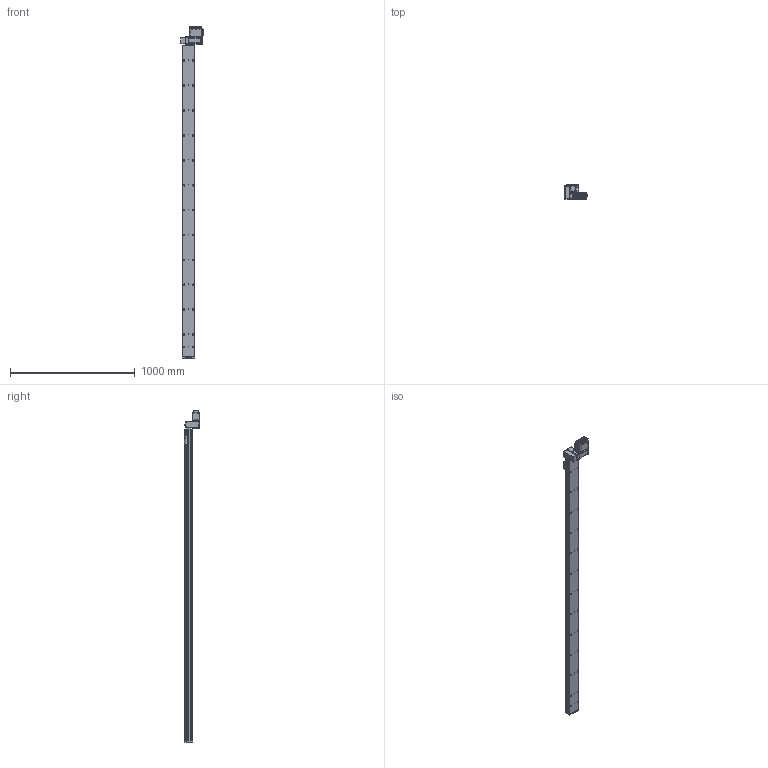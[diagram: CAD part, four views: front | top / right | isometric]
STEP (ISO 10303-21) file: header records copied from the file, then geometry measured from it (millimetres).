
FILE_DESCRIPTION (( 'STEP AP203' ), '1' );
FILE_NAME ('S10 TBN RH S2500.STEP', '2012-06-14T09:43:56', ( 'Conseil Régional Haute-Normandie' ), ( 'Conseil Régional Haute-Normandie' ), 'SwSTEP 2.0', 'SolidWorks 2010', '' );
FILE_SCHEMA (( 'CONFIG_CONTROL_DESIGN' ));
Products named in the file (29): plaque de bout s10_Default; cache t皻e_Default; Couvercle_3; T_X2_00F4_X0_le fond_3; T_X2_00F4_X0_le Arri_X2_00E8_X0_re_5; Colonnette ronde_3; T_X2_00F4_X0_le lat_X2_00E9_X0_rale_5; Cvis M5 L30_Default; S10 TBN RH S2500; axe 2500; T_X2_00F4_X0_le contre le moteur_5; embout; palette tbn; cache t皻e axe_Default; renvoi LH_Default; Plaque racord_Default; Assem1_7; BU41 Carte Alimentation P05_3; Colonnette_3; BU45 Carte d''axe A11_5; Moteur 60BLDC90A_3; Connecteur rond D10 3cts_5; Connecteur rond D12 4cts_5; Sub D 9cts 90_X2_00B_X0__3; Radiateur profil_X2_00E9_X0_ 100x25_3; Vis TF 3 torkx_1_1; Vis TF 3 torkx; vis M5 L12_Default; vis M5 L5_Default
Assembly tree (65 placements, depth 3):
  S10 TBN RH S2500
    vis M5 L12_Default  x4
    Plaque racord_Default
    vis M5 L5_Default  x4
    Vis TF 3 torkx  x7
    palette tbn
    cache t皻e_Default  x2
    renvoi LH_Default
    Cvis M5 L30_Default  x2
    cache t皻e axe_Default
    plaque de bout s10_Default
    Assem1_7
      Sub D 9cts 90_X2_00B_X0__3
      BU45 Carte d''axe A11_5
      Radiateur profil_X2_00E9_X0_ 100x25_3
      Vis TF 3 torkx_1_1  x21
      T_X2_00F4_X0_le contre le moteur_5
      Connecteur rond D10 3cts_5  x2
      T_X2_00F4_X0_le lat_X2_00E9_X0_rale_5  x2
      BU41 Carte Alimentation P05_3
      Colonnette_3  x2
      T_X2_00F4_X0_le fond_3
      Moteur 60BLDC90A_3
      T_X2_00F4_X0_le Arri_X2_00E8_X0_re_5
      Couvercle_3
      Colonnette ronde_3
      Connecteur rond D12 4cts_5
    embout
    axe 2500
Bounding box: 189.8 x 124.75 x 2666.5 mm (x, y, z)
Volume: 13740801.8 mm3; surface area: 1468351.2 mm2
Topology: 64 solids, 64 shells, 2471 faces, 6164 edges, 3998 vertices
Faces by surface type: plane 1159, cylinder 1097, cone 180, bspline 32, torus 3
Entity records: 50019 total; most frequent: CARTESIAN_POINT 8950, DIRECTION 8139, ORIENTED_EDGE 7348, EDGE_CURVE 3674, AXIS2_PLACEMENT_3D 3048, VERTEX_POINT 2404, LINE 2043, VECTOR 2043
